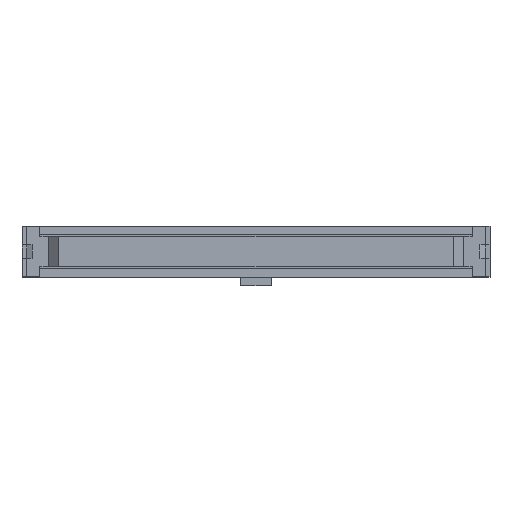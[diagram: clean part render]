
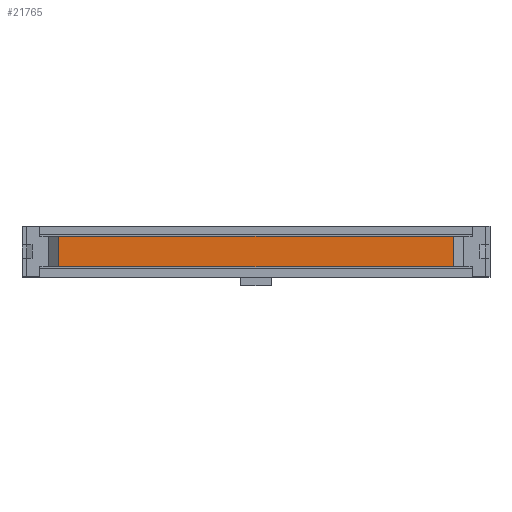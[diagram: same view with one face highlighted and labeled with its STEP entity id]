
A CAD part, top view. The second image highlights one B-rep face of the part: STEP entity #21765.
In plain terms, the highlighted planar face has unit normal (0, 0, 1).
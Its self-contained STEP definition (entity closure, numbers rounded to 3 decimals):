
#17061 = FACE_OUTER_BOUND ( 'NONE', #91428, .T. ) ;
#21765 = ADVANCED_FACE ( 'NONE', ( #17061 ), #34467, .T. ) ;
#23189 = LINE ( 'NONE', #129918, #33159 ) ;
#26681 = EDGE_CURVE ( 'NONE', #66032, #117117, #95917, .T. ) ;
#33159 = VECTOR ( 'NONE', #43112, 1000. ) ;
#34467 = PLANE ( 'NONE',  #134672 ) ;
#38127 = DIRECTION ( 'NONE',  ( 0., 1., 0. ) ) ;
#38380 = VECTOR ( 'NONE', #66264, 1000. ) ;
#41206 = CARTESIAN_POINT ( 'NONE',  ( 49.555, 344.494, 34.75 ) ) ;
#43112 = DIRECTION ( 'NONE',  ( 1., 0., 0. ) ) ;
#44344 = CARTESIAN_POINT ( 'NONE',  ( 38.63, 348.094, 34.75 ) ) ;
#50309 = CARTESIAN_POINT ( 'NONE',  ( 2.915, 344.494, 34.75 ) ) ;
#66032 = VERTEX_POINT ( 'NONE', #109432 ) ;
#66264 = DIRECTION ( 'NONE',  ( -1., 0., 0. ) ) ;
#71057 = EDGE_CURVE ( 'NONE', #117117, #95037, #23189, .T. ) ;
#71437 = VECTOR ( 'NONE', #38127, 1000. ) ;
#80279 = VERTEX_POINT ( 'NONE', #109936 ) ;
#80622 = LINE ( 'NONE', #91584, #71437 ) ;
#81041 = CARTESIAN_POINT ( 'NONE',  ( 2.915, 346.244, 34.75 ) ) ;
#91428 = EDGE_LOOP ( 'NONE', ( #127392, #92141, #131971, #103917 ) ) ;
#91584 = CARTESIAN_POINT ( 'NONE',  ( 49.555, 346.244, 34.75 ) ) ;
#92141 = ORIENTED_EDGE ( 'NONE', *, *, #26681, .T. ) ;
#95037 = VERTEX_POINT ( 'NONE', #41206 ) ;
#95917 = LINE ( 'NONE', #81041, #99999 ) ;
#96446 = LINE ( 'NONE', #44344, #38380 ) ;
#98246 = EDGE_CURVE ( 'NONE', #95037, #80279, #80622, .T. ) ;
#99999 = VECTOR ( 'NONE', #123540, 1000. ) ;
#103917 = ORIENTED_EDGE ( 'NONE', *, *, #98246, .T. ) ;
#108461 = DIRECTION ( 'NONE',  ( 1., 0., 0. ) ) ;
#109432 = CARTESIAN_POINT ( 'NONE',  ( 2.915, 348.094, 34.75 ) ) ;
#109936 = CARTESIAN_POINT ( 'NONE',  ( 49.555, 348.094, 34.75 ) ) ;
#110986 = DIRECTION ( 'NONE',  ( 0., 0., 1. ) ) ;
#117117 = VERTEX_POINT ( 'NONE', #50309 ) ;
#123540 = DIRECTION ( 'NONE',  ( 0., -1., 0. ) ) ;
#127392 = ORIENTED_EDGE ( 'NONE', *, *, #130521, .T. ) ;
#129918 = CARTESIAN_POINT ( 'NONE',  ( 38.63, 344.494, 34.75 ) ) ;
#130521 = EDGE_CURVE ( 'NONE', #80279, #66032, #96446, .T. ) ;
#131971 = ORIENTED_EDGE ( 'NONE', *, *, #71057, .T. ) ;
#132229 = CARTESIAN_POINT ( 'NONE',  ( -11.08, 346.244, 34.75 ) ) ;
#134672 = AXIS2_PLACEMENT_3D ( 'NONE', #132229, #110986, #108461 ) ;
